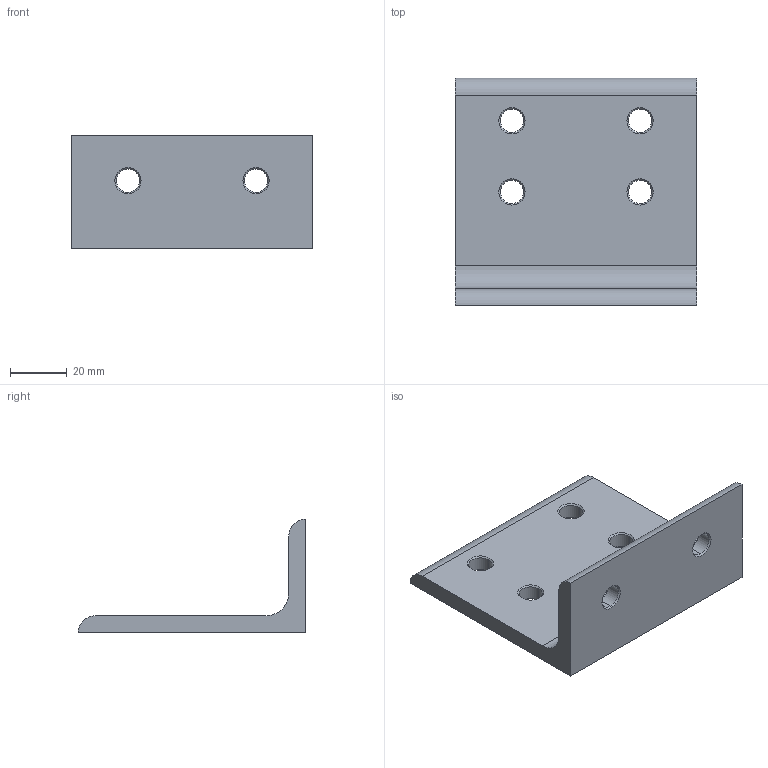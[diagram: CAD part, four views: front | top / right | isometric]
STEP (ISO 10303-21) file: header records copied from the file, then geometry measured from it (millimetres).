
FILE_DESCRIPTION (( 'STEP AP203' ), '1' );
FILE_NAME ('114590AL.STEP', '2017-04-27T11:07:54', ( '' ), ( '' ), 'SwSTEP 2.0', 'SolidWorks 2014', '' );
FILE_SCHEMA (( 'CONFIG_CONTROL_DESIGN' ));
Length unit declared in the file: millimetre
Products named in the file (1): 114590AL
Bounding box: 85 x 80 x 40 mm (x, y, z)
Volume: 56052.7 mm3; surface area: 21242 mm2
Topology: 1 solids, 1 shells, 45 faces, 105 edges, 62 vertices
Faces by surface type: cone 24, cylinder 15, plane 6
Entity records: 1382 total; most frequent: DIRECTION 251, CARTESIAN_POINT 213, ORIENTED_EDGE 210, EDGE_CURVE 105, AXIS2_PLACEMENT_3D 100, VERTEX_POINT 62, EDGE_LOOP 57, CIRCLE 54
